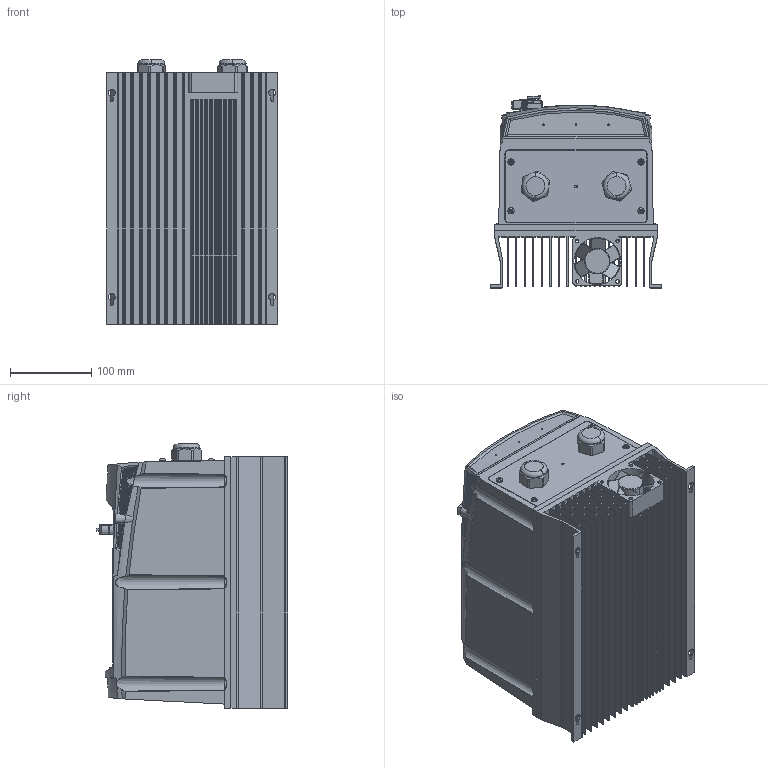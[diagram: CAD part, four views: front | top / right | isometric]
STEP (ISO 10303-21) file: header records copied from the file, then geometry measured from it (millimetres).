
FILE_DESCRIPTION (( 'STEP AP214' ), '1' );
FILE_NAME ('E3 IP66 Size 3 - basic.STEP', '2017-12-20T11:49:20', ( '' ), ( '' ), 'SwSTEP 2.0', 'SolidWorks 2017', '' );
FILE_SCHEMA (( 'AUTOMOTIVE_DESIGN' ));
Products named in the file (1): E3 IP66 Size 3 - basic
Bounding box: 210.5 x 236.01 x 325.78 mm (x, y, z)
Volume: 5840215.7 mm3; surface area: 1445886.7 mm2
Topology: 1 solids, 1 shells, 5078 faces, 14909 edges, 9800 vertices
Faces by surface type: cylinder 1862, plane 937, sphere 859, bspline 834, cone 379, torus 207
Entity records: 251727 total; most frequent: CARTESIAN_POINT 142017, ORIENTED_EDGE 27278, DIRECTION 15816, EDGE_CURVE 13639, VERTEX_POINT 9030, B_SPLINE_CURVE_WITH_KNOTS 8217, AXIS2_PLACEMENT_3D 6258, EDGE_LOOP 5597
